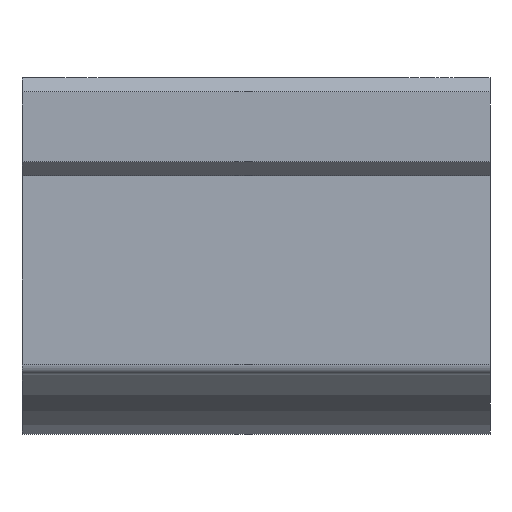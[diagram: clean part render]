
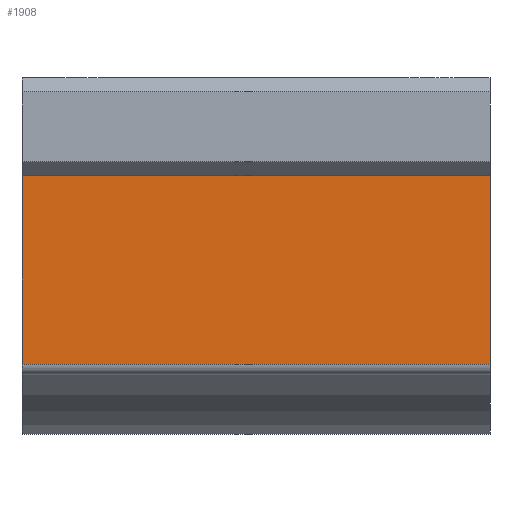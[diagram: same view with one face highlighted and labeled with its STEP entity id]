
A CAD part, front view. The second image highlights one B-rep face of the part: STEP entity #1908.
In plain terms, the highlighted planar face has unit normal (0, -1, 0).
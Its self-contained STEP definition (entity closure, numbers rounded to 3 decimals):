
#1645=CARTESIAN_POINT('',(67.0,-36.,12.));
#1646=VERTEX_POINT('',#1645);
#1653=CARTESIAN_POINT('',(67.0,-36.0,-15.));
#1654=VERTEX_POINT('',#1653);
#1655=CARTESIAN_POINT('',(67.0,-36.0,-15.));
#1656=DIRECTION('',(0.0,0.0,1.0));
#1657=VECTOR('',#1656,27.);
#1658=LINE('',#1655,#1657);
#1659=EDGE_CURVE('',#1654,#1646,#1658,.T.);
#1723=CARTESIAN_POINT('',(0.0,-36.0,-15.));
#1724=VERTEX_POINT('',#1723);
#1725=CARTESIAN_POINT('',(67.0,-36.0,-15.));
#1726=DIRECTION('',(-1.0,0.0,0.0));
#1727=VECTOR('',#1726,67.0);
#1728=LINE('',#1725,#1727);
#1729=EDGE_CURVE('',#1654,#1724,#1728,.T.);
#1789=CARTESIAN_POINT('',(0.0,-36.,12.));
#1790=VERTEX_POINT('',#1789);
#1791=CARTESIAN_POINT('',(0.0,-36.,12.));
#1792=DIRECTION('',(0.0,0.0,-1.0));
#1793=VECTOR('',#1792,27.);
#1794=LINE('',#1791,#1793);
#1795=EDGE_CURVE('',#1790,#1724,#1794,.T.);
#1892=CARTESIAN_POINT('',(0.0,-36.0,-16.5));
#1893=DIRECTION('',(0.0,-1.0,0.0));
#1894=DIRECTION('',(0.0,0.0,-1.0));
#1895=AXIS2_PLACEMENT_3D('',#1892,#1893,#1894);
#1896=PLANE('',#1895);
#1897=ORIENTED_EDGE('',*,*,#1729,.F.);
#1898=ORIENTED_EDGE('',*,*,#1659,.T.);
#1899=CARTESIAN_POINT('',(0.0,-36.,12.));
#1900=DIRECTION('',(1.0,0.0,0.0));
#1901=VECTOR('',#1900,67.0);
#1902=LINE('',#1899,#1901);
#1903=EDGE_CURVE('',#1790,#1646,#1902,.T.);
#1904=ORIENTED_EDGE('',*,*,#1903,.F.);
#1905=ORIENTED_EDGE('',*,*,#1795,.T.);
#1906=EDGE_LOOP('',(#1897,#1898,#1904,#1905));
#1907=FACE_OUTER_BOUND('',#1906,.T.);
#1908=ADVANCED_FACE('',(#1907),#1896,.T.);
